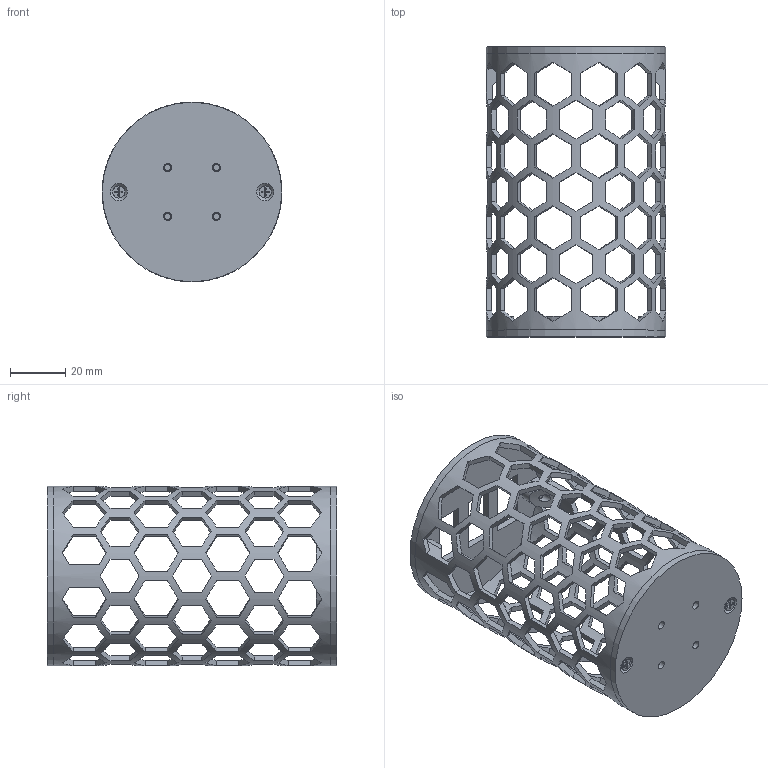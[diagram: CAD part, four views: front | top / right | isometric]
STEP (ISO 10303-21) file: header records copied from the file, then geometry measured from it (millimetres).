
FILE_DESCRIPTION(/* description */ (''),/* implementation_level */ '2;1');
FILE_NAME(/* name */ 'G:\Unidades compartidas\PROYECTO PANAMA\Archivos para pagina web\Cansat_Estandar\STEP\Cansat_Estandar.stp',/* time_stamp */ '2022-06-07T17:40:36-05:00',/* author */ ('pined'),/* organization */ (''),/* preprocessor_version */ 'ST-DEVELOPER v18.1',/* originating_system */ 'Autodesk Inventor 2022',/* authorisation */ '');
FILE_SCHEMA (('AUTOMOTIVE_DESIGN { 1 0 10303 214 3 1 1 }'));
Length unit declared in the file: millimetre
Products named in the file (9): Cansat_Estandar; Case_Cansat Estandar; AS 1112 - M3  Tipo 10; AS 1112 - M2,5  Tipo 10; 7. Arandela; Tapa para exp externo; Tapa CubeSat cerrado; 8. Soporte tuercas; AS 1427 - M2,5 x 8
Assembly tree (17 placements, depth 2):
  Cansat_Estandar
    Case_Cansat Estandar
    AS 1112 - M3  Tipo 10  x4
    AS 1112 - M2,5  Tipo 10  x4
    7. Arandela
    Tapa para exp externo
    Tapa CubeSat cerrado
    8. Soporte tuercas
    AS 1427 - M2,5 x 8  x4
Bounding box: 65 x 105 x 65 mm (x, y, z)
Volume: 35489.7 mm3; surface area: 43109.6 mm2
Topology: 17 solids, 17 shells, 916 faces, 2532 edges, 1644 vertices
Faces by surface type: plane 688, cone 166, cylinder 46, torus 16
Full cylindrical faces by diameter (mm): 2.013 x4, 2.224 x4, 2.459 x4, 2.5 x8, 3 x12, 4.4 x4, 35 x2, 61 x1, 65 x3
Entity records: 24587 total; most frequent: CARTESIAN_POINT 4410, DIRECTION 4139, ORIENTED_EDGE 4000, EDGE_CURVE 2000, AXIS2_PLACEMENT_3D 1509, VERTEX_POINT 1320, LINE 1121, VECTOR 1121
